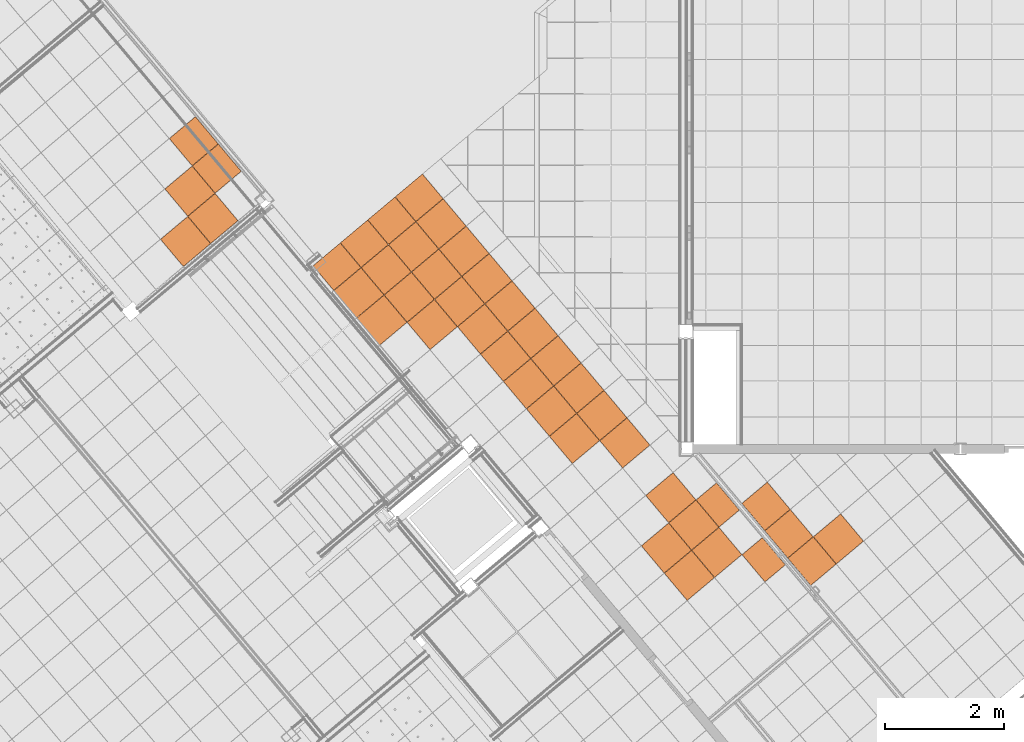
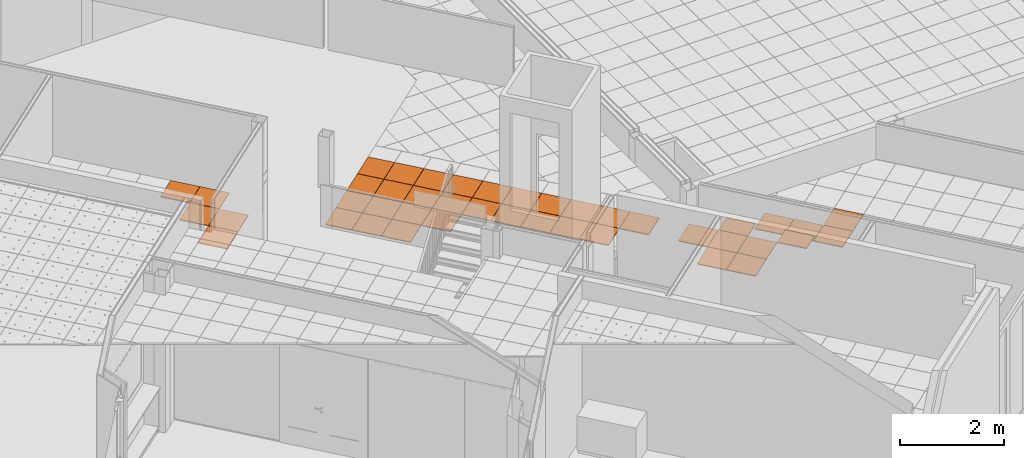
# One storey, part 196 of 338: 42 proxies, 3 elements without a shape of their own.
"""IFC2X3 building model written with IfcOpenShell, lengths in millimetres."""

from ifc_helpers import new_model, entity, si_unit, converted_unit, derived_unit, money_unit, direction, frame, origin_with_axes, place, context, subcontext, project, spatial, faceted_brep, source, transform, mapped, material, type_object, type_shapes, element, aggregate, save


model = new_model("IFC2X3")

# Units and contexts
model_context = context("Model", 3, precision=0.01, world=origin_with_axes(), true_north=direction((0.0, 1.0)))
plan_context = context("Plan", 3, precision=0.01, world=origin_with_axes(), true_north=direction((0.0, 1.0)))
body_context = subcontext(model_context, "Body", "Model", "MODEL_VIEW")
ifc_project = project(units=[si_unit("LENGTHUNIT", "METRE", prefix="MILLI"), si_unit("AREAUNIT", "SQUARE_METRE"), si_unit("VOLUMEUNIT", "CUBIC_METRE"), converted_unit("PLANEANGLEUNIT", "DEGREE", entity("IfcPlaneAngleMeasure", 0.0174532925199), si_unit("PLANEANGLEUNIT", "RADIAN"), dimensions=[0, 0, 0, 0, 0, 0, 0]), money_unit("EUR"), converted_unit("TIMEUNIT", "Year", entity("IfcTimeMeasure", 31556926.0), si_unit("TIMEUNIT", "SECOND"), dimensions=[0, 0, 1, 0, 0, 0, 0]), si_unit("MASSUNIT", "GRAM", prefix="KILO"), si_unit("THERMODYNAMICTEMPERATUREUNIT", "DEGREE_CELSIUS"), si_unit("LUMINOUSINTENSITYUNIT", "LUMEN"), si_unit("ENERGYUNIT", "JOULE", prefix="MEGA"), derived_unit("THERMALCONDUCTANCEUNIT", [(si_unit("POWERUNIT", "WATT"), 1), (si_unit("LENGTHUNIT", "METRE"), -1), (si_unit("THERMODYNAMICTEMPERATUREUNIT", "KELVIN"), -1)]), derived_unit("SPECIFICHEATCAPACITYUNIT", [(si_unit("ENERGYUNIT", "JOULE"), 1), (si_unit("MASSUNIT", "GRAM", prefix="KILO"), -1), (si_unit("THERMODYNAMICTEMPERATUREUNIT", "KELVIN"), -1)]), derived_unit("MASSDENSITYUNIT", [(si_unit("MASSUNIT", "GRAM", prefix="KILO"), 1), (si_unit("VOLUMEUNIT", "CUBIC_METRE"), -1)])], contexts=[model_context, plan_context])

# Site, building, storey
site_placement = place(None, origin_with_axes())
site = spatial("IfcSite", under=ifc_project, at=site_placement, Name="Fortuinstraat Woensdrecht", CompositionType="ELEMENT")
building_placement = place(site_placement, origin_with_axes())
building = spatial("IfcBuilding", under=site, at=building_placement, Name="IKC Fortuna", CompositionType="ELEMENT")
storey_placement = place(building_placement, origin_with_axes())
storey = spatial("IfcBuildingStorey", under=building, at=storey_placement, Name="00 begane grond", CompositionType="ELEMENT", Elevation=0.0)

# Covering, proxy
covering_type = type_object("IfcCoveringType", Name="Curtain Wall Type", PredefinedType="CEILING")
covering_1_placement = place(storey_placement, frame((15581.2998521, 5435.5548951, 3210.0), z_axis=(0.0, 0.0, 1.0), x_axis=(1.0, 0.0, 0.0)))
covering_1 = element("IfcCovering", 1, at=covering_1_placement, inside=storey, type_object=covering_type, Name="45_Plafondafwerking_P02 v", PredefinedType="CEILING")
ifc_material = material(Name="Gipsplaat")
building_element_proxy_type_1 = type_object("IfcBuildingElementProxyType", Name="Distinct Panel 600 x 600 x 20", PredefinedType="NOTDEFINED")
shared_shape_1 = source(origin_with_axes(), body_context, "Body", "Brep", [
    faceted_brep([(-597.499994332, 2.50000201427, -10.0), (-597.499994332, 2.50000201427, 10.0), (-597.499997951, 597.499994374, 10.0), (-597.499997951, 597.499994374, -10.0), (-2.50001005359, 2.49999600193, -10.0), (-2.50001005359, 2.49999600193, 10.0), (-2.49999596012, 597.499989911, 10.0), (-2.49999596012, 597.499989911, -10.0)], [[[0, 1, 2, 3]], [[4, 5, 1, 0]], [[1, 5, 6, 2]], [[3, 2, 6, 7]], [[0, 3, 7, 4]], [[7, 6, 5, 4]]]),
])
proxy_1_placement = place(covering_1_placement, frame((1703.17313986, 645.887923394, 0.0), z_axis=(0.0, 0.0, 1.0), x_axis=(1.0, 0.0, 0.0)))
proxy_1 = element("IfcBuildingElementProxy", 2, at=proxy_1_placement, type_object=building_element_proxy_type_1, material=ifc_material, Name="__Panel-D", context=body_context, shape_type="MappedRepresentation", body=[
    mapped(shared_shape_1, transform((-422.649621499, 36.9769853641, 0.0), x_axis=(-0.766044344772, -0.642787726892, 0.0), y_axis=(0.642787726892, -0.766044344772, 0.0), z_axis=(0.0, 0.0, 1.0))),
])

covering_2_placement = place(storey_placement, frame((26804.4884552, -1724.43837499, 3010.0), z_axis=(0.0, 0.0, 1.0), x_axis=(1.0, 0.0, 0.0)))
covering_2 = element("IfcCovering", 3, at=covering_2_placement, inside=storey, type_object=covering_type, Name="45_Plafondafwerking_P04", PredefinedType="CEILING")
shared_shape_2 = source(origin_with_axes(), body_context, "Body", "Brep", [
    faceted_brep([(597.499991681, 597.50000021, -10.0), (2.49999975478, 597.499991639, -10.0), (2.49999975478, 597.499991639, 10.0), (597.499991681, 597.50000021, 10.0), (597.499992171, 2.49999865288, -10.0), (2.4999986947, 2.50000779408, -10.0), (2.4999986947, 2.50000779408, 10.0), (597.499992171, 2.49999865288, 10.0)], [[[0, 1, 2, 3]], [[0, 4, 5, 1]], [[1, 5, 6, 2]], [[3, 2, 6, 7]], [[4, 0, 3, 7]], [[5, 4, 7, 6]]]),
])
proxy_2_placement = place(covering_2_placement, frame((-1063.39895974, 2200.74439073, 0.0), z_axis=(0.0, 0.0, 1.0), x_axis=(1.0, 0.0, 0.0)))
proxy_2 = element("IfcBuildingElementProxy", 4, at=proxy_2_placement, type_object=building_element_proxy_type_1, material=ifc_material, Name="__Panel-D", context=body_context, shape_type="MappedRepresentation", body=[
    mapped(shared_shape_2, transform((-36.9771146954, -422.649610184, 0.0), x_axis=(0.766044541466, 0.642787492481, 0.0), y_axis=(-0.642787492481, 0.766044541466, 0.0), z_axis=(0.0, 0.0, 1.0))),
])

# Covering, proxies
covering_3_placement = place(storey_placement, frame((30245.4600673, -364.084118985, 2810.0), z_axis=(0.0, 0.0, 1.0), x_axis=(1.0, 0.0, 0.0)))
covering_3 = element("IfcCovering", 5, at=covering_3_placement, inside=storey, type_object=covering_type, Name="45_Plafondafwerking_P02", PredefinedType="CEILING")
building_element_proxy_type_2 = type_object("IfcBuildingElementProxyType", Name="Distinct Panel 560 x 600 x 20", PredefinedType="NOTDEFINED")
shared_shape_3 = source(origin_with_axes(), body_context, "Body", "Brep", [
    faceted_brep([(597.499997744, 597.500000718, -10.0), (42.1235042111, 597.499997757, -10.0), (42.1235042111, 597.499997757, 10.0), (597.499997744, 597.500000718, 10.0), (597.500009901, 2.49999101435, -10.0), (42.1241736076, 2.49999362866, -10.0), (42.1241736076, 2.49999362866, 10.0), (597.500009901, 2.49999101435, 10.0)], [[[0, 1, 2, 3]], [[0, 4, 5, 1]], [[1, 5, 6, 2]], [[3, 2, 6, 7]], [[4, 0, 3, 7]], [[5, 4, 7, 6]]]),
])
proxy_3_placement = place(covering_3_placement, frame((-2520.72063799, 234.599805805, 0.0), z_axis=(0.0, 0.0, 1.0), x_axis=(1.0, 0.0, 0.0)))
proxy_3 = element("IfcBuildingElementProxy", 6, at=proxy_3_placement, type_object=building_element_proxy_type_2, material=ifc_material, Name="__Panel-D", context=body_context, shape_type="MappedRepresentation", body=[
    mapped(shared_shape_3, transform((-52.1543181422, -435.384417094, 0.0), x_axis=(0.766045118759, 0.642786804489, 0.0), y_axis=(-0.642786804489, 0.766045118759, 0.0), z_axis=(0.0, 0.0, 1.0))),
])
shared_shape_4 = source(origin_with_axes(), body_context, "Body", "Brep", [
    faceted_brep([(597.49999164, 597.500000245, -10.0), (2.50000779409, 597.500001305, -10.0), (2.50000779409, 597.500001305, 10.0), (597.49999164, 597.500000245, 10.0), (597.50000021, 2.50000831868, -10.0), (2.49999865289, 2.50000782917, -10.0), (2.49999865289, 2.50000782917, 10.0), (597.50000021, 2.50000831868, 10.0)], [[[0, 1, 2, 3]], [[0, 4, 5, 1]], [[1, 5, 6, 2]], [[3, 2, 6, 7]], [[4, 0, 3, 7]], [[5, 4, 7, 6]]]),
])
proxy_4_placement = place(covering_3_placement, frame((-2076.27039059, 607.537048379, 0.0), z_axis=(0.0, 0.0, 1.0), x_axis=(1.0, 0.0, 0.0)))
proxy_4 = element("IfcBuildingElementProxy", 7, at=proxy_4_placement, type_object=building_element_proxy_type_1, material=ifc_material, Name="__Panel-D", context=body_context, shape_type="MappedRepresentation", body=[
    mapped(shared_shape_4, transform((-36.9774942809, -422.649576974, 0.0), x_axis=(0.766045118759, 0.642786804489, 0.0), y_axis=(-0.642786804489, 0.766045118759, 0.0), z_axis=(0.0, 0.0, 1.0))),
])

# Proxy
proxy_5_placement = place(covering_2_placement, frame((-1137.35318913, 1355.44517036, 0.0), z_axis=(0.0, 0.0, 1.0), x_axis=(1.0, 0.0, 0.0)))
proxy_5 = element("IfcBuildingElementProxy", 8, at=proxy_5_placement, type_object=building_element_proxy_type_1, material=ifc_material, Name="__Panel-D", context=body_context, shape_type="MappedRepresentation", body=[
    mapped(shared_shape_4, transform((-36.9771146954, -422.649610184, 0.0), x_axis=(0.766044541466, 0.642787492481, 0.0), y_axis=(-0.642787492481, 0.766044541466, 0.0), z_axis=(0.0, 0.0, 1.0))),
])

proxy_6_placement = place(covering_2_placement, frame((-677.726464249, 1741.11766585, 0.0), z_axis=(0.0, 0.0, 1.0), x_axis=(1.0, 0.0, 0.0)))
proxy_6 = element("IfcBuildingElementProxy", 9, at=proxy_6_placement, type_object=building_element_proxy_type_1, material=ifc_material, Name="__Panel-D", context=body_context, shape_type="MappedRepresentation", body=[
    mapped(shared_shape_4, transform((-36.9771146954, -422.649610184, 0.0), x_axis=(0.766044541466, 0.642787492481, 0.0), y_axis=(-0.642787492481, 0.766044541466, 0.0), z_axis=(0.0, 0.0, 1.0))),
])

proxy_7_placement = place(covering_2_placement, frame((-1523.02568462, 1815.07189524, 0.0), z_axis=(0.0, 0.0, 1.0), x_axis=(1.0, 0.0, 0.0)))
proxy_7 = element("IfcBuildingElementProxy", 10, at=proxy_7_placement, type_object=building_element_proxy_type_1, material=ifc_material, Name="__Panel-D", context=body_context, shape_type="MappedRepresentation", body=[
    mapped(shared_shape_4, transform((-36.9771146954, -422.649610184, 0.0), x_axis=(0.766044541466, 0.642787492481, 0.0), y_axis=(-0.642787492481, 0.766044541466, 0.0), z_axis=(0.0, 0.0, 1.0))),
])

proxy_8_placement = place(covering_2_placement, frame((-5765.42313499, 6870.96586891, 0.0), z_axis=(0.0, 0.0, 1.0), x_axis=(1.0, 0.0, 0.0)))
proxy_8 = element("IfcBuildingElementProxy", 11, at=proxy_8_placement, type_object=building_element_proxy_type_1, material=ifc_material, Name="__Panel-D", context=body_context, shape_type="MappedRepresentation", body=[
    mapped(shared_shape_4, transform((-36.9771146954, -422.649610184, 0.0), x_axis=(0.766044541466, 0.642787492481, 0.0), y_axis=(-0.642787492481, 0.766044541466, 0.0), z_axis=(0.0, 0.0, 1.0))),
])

proxy_9_placement = place(covering_2_placement, frame((-4920.12391462, 6797.01163952, 0.0), z_axis=(0.0, 0.0, 1.0), x_axis=(1.0, 0.0, 0.0)))
proxy_9 = element("IfcBuildingElementProxy", 12, at=proxy_9_placement, type_object=building_element_proxy_type_1, material=ifc_material, Name="__Panel-D", context=body_context, shape_type="MappedRepresentation", body=[
    mapped(shared_shape_4, transform((-36.9771146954, -422.649610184, 0.0), x_axis=(0.766044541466, 0.642787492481, 0.0), y_axis=(-0.642787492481, 0.766044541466, 0.0), z_axis=(0.0, 0.0, 1.0))),
])

proxy_10_placement = place(covering_2_placement, frame((-4534.45141914, 6337.38491464, 0.0), z_axis=(0.0, 0.0, 1.0), x_axis=(1.0, 0.0, 0.0)))
proxy_10 = element("IfcBuildingElementProxy", 13, at=proxy_10_placement, type_object=building_element_proxy_type_1, material=ifc_material, Name="__Panel-D", context=body_context, shape_type="MappedRepresentation", body=[
    mapped(shared_shape_4, transform((-36.9771146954, -422.649610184, 0.0), x_axis=(0.766044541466, 0.642787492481, 0.0), y_axis=(-0.642787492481, 0.766044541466, 0.0), z_axis=(0.0, 0.0, 1.0))),
])

proxy_11_placement = place(covering_2_placement, frame((-4148.77892365, 5877.75818976, 0.0), z_axis=(0.0, 0.0, 1.0), x_axis=(1.0, 0.0, 0.0)))
proxy_11 = element("IfcBuildingElementProxy", 14, at=proxy_11_placement, type_object=building_element_proxy_type_1, material=ifc_material, Name="__Panel-D", context=body_context, shape_type="MappedRepresentation", body=[
    mapped(shared_shape_4, transform((-36.9771146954, -422.649610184, 0.0), x_axis=(0.766044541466, 0.642787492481, 0.0), y_axis=(-0.642787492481, 0.766044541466, 0.0), z_axis=(0.0, 0.0, 1.0))),
])

proxy_12_placement = place(covering_2_placement, frame((-3763.10642816, 5418.13146488, 0.0), z_axis=(0.0, 0.0, 1.0), x_axis=(1.0, 0.0, 0.0)))
proxy_12 = element("IfcBuildingElementProxy", 15, at=proxy_12_placement, type_object=building_element_proxy_type_1, material=ifc_material, Name="__Panel-D", context=body_context, shape_type="MappedRepresentation", body=[
    mapped(shared_shape_4, transform((-36.9771146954, -422.649610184, 0.0), x_axis=(0.766044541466, 0.642787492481, 0.0), y_axis=(-0.642787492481, 0.766044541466, 0.0), z_axis=(0.0, 0.0, 1.0))),
])

proxy_13_placement = place(covering_2_placement, frame((-5453.7048689, 5566.03992366, 0.0), z_axis=(0.0, 0.0, 1.0), x_axis=(1.0, 0.0, 0.0)))
proxy_13 = element("IfcBuildingElementProxy", 16, at=proxy_13_placement, type_object=building_element_proxy_type_1, material=ifc_material, Name="__Panel-D", context=body_context, shape_type="MappedRepresentation", body=[
    mapped(shared_shape_4, transform((-36.9771146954, -422.649610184, 0.0), x_axis=(0.766044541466, 0.642787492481, 0.0), y_axis=(-0.642787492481, 0.766044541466, 0.0), z_axis=(0.0, 0.0, 1.0))),
])

proxy_14_placement = place(covering_2_placement, frame((-5839.37736438, 6025.66664854, 0.0), z_axis=(0.0, 0.0, 1.0), x_axis=(1.0, 0.0, 0.0)))
proxy_14 = element("IfcBuildingElementProxy", 17, at=proxy_14_placement, type_object=building_element_proxy_type_1, material=ifc_material, Name="__Panel-D", context=body_context, shape_type="MappedRepresentation", body=[
    mapped(shared_shape_4, transform((-36.9771146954, -422.649610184, 0.0), x_axis=(0.766044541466, 0.642787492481, 0.0), y_axis=(-0.642787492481, 0.766044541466, 0.0), z_axis=(0.0, 0.0, 1.0))),
])

proxy_15_placement = place(covering_2_placement, frame((-5305.79641011, 7256.6383644, 0.0), z_axis=(0.0, 0.0, 1.0), x_axis=(1.0, 0.0, 0.0)))
proxy_15 = element("IfcBuildingElementProxy", 18, at=proxy_15_placement, type_object=building_element_proxy_type_1, material=ifc_material, Name="__Panel-D", context=body_context, shape_type="MappedRepresentation", body=[
    mapped(shared_shape_4, transform((-36.9771146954, -422.649610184, 0.0), x_axis=(0.766044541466, 0.642787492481, 0.0), y_axis=(-0.642787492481, 0.766044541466, 0.0), z_axis=(0.0, 0.0, 1.0))),
])

proxy_16_placement = place(covering_2_placement, frame((-3065.71566657, 3653.57879476, 0.0), z_axis=(0.0, 0.0, 1.0), x_axis=(1.0, 0.0, 0.0)))
proxy_16 = element("IfcBuildingElementProxy", 19, at=proxy_16_placement, type_object=building_element_proxy_type_1, material=ifc_material, Name="__Panel-D", context=body_context, shape_type="MappedRepresentation", body=[
    mapped(shared_shape_4, transform((-36.9771146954, -422.649610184, 0.0), x_axis=(0.766044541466, 0.642787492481, 0.0), y_axis=(-0.642787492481, 0.766044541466, 0.0), z_axis=(0.0, 0.0, 1.0))),
])

proxy_17_placement = place(covering_2_placement, frame((-3451.38816206, 4113.20551964, 0.0), z_axis=(0.0, 0.0, 1.0), x_axis=(1.0, 0.0, 0.0)))
proxy_17 = element("IfcBuildingElementProxy", 20, at=proxy_17_placement, type_object=building_element_proxy_type_1, material=ifc_material, Name="__Panel-D", context=body_context, shape_type="MappedRepresentation", body=[
    mapped(shared_shape_4, transform((-36.9771146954, -422.649610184, 0.0), x_axis=(0.766044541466, 0.642787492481, 0.0), y_axis=(-0.642787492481, 0.766044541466, 0.0), z_axis=(0.0, 0.0, 1.0))),
])

proxy_18_placement = place(covering_2_placement, frame((-3837.06065755, 4572.83224451, 0.0), z_axis=(0.0, 0.0, 1.0), x_axis=(1.0, 0.0, 0.0)))
proxy_18 = element("IfcBuildingElementProxy", 21, at=proxy_18_placement, type_object=building_element_proxy_type_1, material=ifc_material, Name="__Panel-D", context=body_context, shape_type="MappedRepresentation", body=[
    mapped(shared_shape_4, transform((-36.9771146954, -422.649610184, 0.0), x_axis=(0.766044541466, 0.642787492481, 0.0), y_axis=(-0.642787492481, 0.766044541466, 0.0), z_axis=(0.0, 0.0, 1.0))),
])

proxy_19_placement = place(covering_2_placement, frame((-4222.73315304, 5032.45896939, 0.0), z_axis=(0.0, 0.0, 1.0), x_axis=(1.0, 0.0, 0.0)))
proxy_19 = element("IfcBuildingElementProxy", 22, at=proxy_19_placement, type_object=building_element_proxy_type_1, material=ifc_material, Name="__Panel-D", context=body_context, shape_type="MappedRepresentation", body=[
    mapped(shared_shape_4, transform((-36.9771146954, -422.649610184, 0.0), x_axis=(0.766044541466, 0.642787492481, 0.0), y_axis=(-0.642787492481, 0.766044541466, 0.0), z_axis=(0.0, 0.0, 1.0))),
])

proxy_20_placement = place(covering_2_placement, frame((-4608.40564853, 5492.08569427, 0.0), z_axis=(0.0, 0.0, 1.0), x_axis=(1.0, 0.0, 0.0)))
proxy_20 = element("IfcBuildingElementProxy", 23, at=proxy_20_placement, type_object=building_element_proxy_type_1, material=ifc_material, Name="__Panel-D", context=body_context, shape_type="MappedRepresentation", body=[
    mapped(shared_shape_4, transform((-36.9771146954, -422.649610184, 0.0), x_axis=(0.766044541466, 0.642787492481, 0.0), y_axis=(-0.642787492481, 0.766044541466, 0.0), z_axis=(0.0, 0.0, 1.0))),
])

proxy_21_placement = place(covering_2_placement, frame((-4994.07814402, 5951.71241915, 0.0), z_axis=(0.0, 0.0, 1.0), x_axis=(1.0, 0.0, 0.0)))
proxy_21 = element("IfcBuildingElementProxy", 24, at=proxy_21_placement, type_object=building_element_proxy_type_1, material=ifc_material, Name="__Panel-D", context=body_context, shape_type="MappedRepresentation", body=[
    mapped(shared_shape_4, transform((-36.9771146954, -422.649610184, 0.0), x_axis=(0.766044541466, 0.642787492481, 0.0), y_axis=(-0.642787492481, 0.766044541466, 0.0), z_axis=(0.0, 0.0, 1.0))),
])

proxy_22_placement = place(covering_2_placement, frame((-5379.7506395, 6411.33914403, 0.0), z_axis=(0.0, 0.0, 1.0), x_axis=(1.0, 0.0, 0.0)))
proxy_22 = element("IfcBuildingElementProxy", 25, at=proxy_22_placement, type_object=building_element_proxy_type_1, material=ifc_material, Name="__Panel-D", context=body_context, shape_type="MappedRepresentation", body=[
    mapped(shared_shape_4, transform((-36.9771146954, -422.649610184, 0.0), x_axis=(0.766044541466, 0.642787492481, 0.0), y_axis=(-0.642787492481, 0.766044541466, 0.0), z_axis=(0.0, 0.0, 1.0))),
])

proxy_23_placement = place(covering_2_placement, frame((-6225.04985987, 6485.29337342, 0.0), z_axis=(0.0, 0.0, 1.0), x_axis=(1.0, 0.0, 0.0)))
proxy_23 = element("IfcBuildingElementProxy", 26, at=proxy_23_placement, type_object=building_element_proxy_type_1, material=ifc_material, Name="__Panel-D", context=body_context, shape_type="MappedRepresentation", body=[
    mapped(shared_shape_4, transform((-36.9771146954, -422.649610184, 0.0), x_axis=(0.766044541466, 0.642787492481, 0.0), y_axis=(-0.642787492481, 0.766044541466, 0.0), z_axis=(0.0, 0.0, 1.0))),
])

proxy_24_placement = place(covering_2_placement, frame((-1449.07145523, 2660.37111561, 0.0), z_axis=(0.0, 0.0, 1.0), x_axis=(1.0, 0.0, 0.0)))
proxy_24 = element("IfcBuildingElementProxy", 27, at=proxy_24_placement, type_object=building_element_proxy_type_1, material=ifc_material, Name="__Panel-D", context=body_context, shape_type="MappedRepresentation", body=[
    mapped(shared_shape_4, transform((-36.9771146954, -422.649610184, 0.0), x_axis=(0.766044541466, 0.642787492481, 0.0), y_axis=(-0.642787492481, 0.766044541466, 0.0), z_axis=(0.0, 0.0, 1.0))),
])

proxy_25_placement = place(covering_2_placement, frame((-2220.4164462, 3579.62456537, 0.0), z_axis=(0.0, 0.0, 1.0), x_axis=(1.0, 0.0, 0.0)))
proxy_25 = element("IfcBuildingElementProxy", 28, at=proxy_25_placement, type_object=building_element_proxy_type_1, material=ifc_material, Name="__Panel-D", context=body_context, shape_type="MappedRepresentation", body=[
    mapped(shared_shape_4, transform((-36.9771146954, -422.649610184, 0.0), x_axis=(0.766044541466, 0.642787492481, 0.0), y_axis=(-0.642787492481, 0.766044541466, 0.0), z_axis=(0.0, 0.0, 1.0))),
])

proxy_26_placement = place(covering_2_placement, frame((-2606.08894169, 4039.25129024, 0.0), z_axis=(0.0, 0.0, 1.0), x_axis=(1.0, 0.0, 0.0)))
proxy_26 = element("IfcBuildingElementProxy", 29, at=proxy_26_placement, type_object=building_element_proxy_type_1, material=ifc_material, Name="__Panel-D", context=body_context, shape_type="MappedRepresentation", body=[
    mapped(shared_shape_4, transform((-36.9771146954, -422.649610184, 0.0), x_axis=(0.766044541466, 0.642787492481, 0.0), y_axis=(-0.642787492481, 0.766044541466, 0.0), z_axis=(0.0, 0.0, 1.0))),
])

proxy_27_placement = place(covering_2_placement, frame((-2991.76143718, 4498.87801512, 0.0), z_axis=(0.0, 0.0, 1.0), x_axis=(1.0, 0.0, 0.0)))
proxy_27 = element("IfcBuildingElementProxy", 30, at=proxy_27_placement, type_object=building_element_proxy_type_1, material=ifc_material, Name="__Panel-D", context=body_context, shape_type="MappedRepresentation", body=[
    mapped(shared_shape_4, transform((-36.9771146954, -422.649610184, 0.0), x_axis=(0.766044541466, 0.642787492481, 0.0), y_axis=(-0.642787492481, 0.766044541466, 0.0), z_axis=(0.0, 0.0, 1.0))),
])

proxy_28_placement = place(covering_2_placement, frame((-3377.43393267, 4958.50474, 0.0), z_axis=(0.0, 0.0, 1.0), x_axis=(1.0, 0.0, 0.0)))
proxy_28 = element("IfcBuildingElementProxy", 31, at=proxy_28_placement, type_object=building_element_proxy_type_1, material=ifc_material, Name="__Panel-D", context=body_context, shape_type="MappedRepresentation", body=[
    mapped(shared_shape_4, transform((-36.9771146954, -422.649610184, 0.0), x_axis=(0.766044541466, 0.642787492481, 0.0), y_axis=(-0.642787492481, 0.766044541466, 0.0), z_axis=(0.0, 0.0, 1.0))),
])

shared_shape_5 = source(origin_with_axes(), body_context, "Body", "Brep", [
    faceted_brep([(597.500001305, 597.499992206, -10.0), (2.50000782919, 597.500001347, -10.0), (2.50000782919, 597.500001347, 10.0), (597.500001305, 597.499992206, 10.0), (597.500000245, 2.5000083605, -10.0), (2.50000831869, 2.49999978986, -10.0), (2.50000831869, 2.49999978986, 10.0), (597.500000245, 2.5000083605, 10.0)], [[[0, 1, 2, 3]], [[0, 4, 5, 1]], [[1, 5, 6, 2]], [[3, 2, 6, 7]], [[4, 0, 3, 7]], [[5, 4, 7, 6]]]),
])
proxy_29_placement = place(covering_2_placement, frame((-6299.00408926, 5639.99415306, 0.0), z_axis=(0.0, 0.0, 1.0), x_axis=(1.0, 0.0, 0.0)))
proxy_29 = element("IfcBuildingElementProxy", 32, at=proxy_29_placement, type_object=building_element_proxy_type_1, material=ifc_material, Name="__Panel-D", context=body_context, shape_type="MappedRepresentation", body=[
    mapped(shared_shape_5, transform((-36.9771146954, -422.649610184, 0.0), x_axis=(0.766044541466, 0.642787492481, 0.0), y_axis=(-0.642787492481, 0.766044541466, 0.0), z_axis=(0.0, 0.0, 1.0))),
])

shared_shape_6 = source(origin_with_axes(), body_context, "Body", "Brep", [
    faceted_brep([(597.500011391, 597.500006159, -10.0), (42.122269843, 597.500002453, -10.0), (42.122269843, 597.500002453, 10.0), (597.500011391, 597.500006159, 10.0), (597.500006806, 2.49999737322, -10.0), (42.1229303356, 2.50000858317, -10.0), (42.1229303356, 2.50000858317, 10.0), (597.500006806, 2.49999737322, 10.0)], [[[0, 1, 2, 3]], [[0, 4, 5, 1]], [[1, 5, 6, 2]], [[3, 2, 6, 7]], [[4, 0, 3, 7]], [[5, 4, 7, 6]]]),
])
type_shapes(building_element_proxy_type_2, [shared_shape_3, shared_shape_6])
proxy_30_placement = place(covering_3_placement, frame((-3292.0652773, 1153.85355065, 0.0), z_axis=(0.0, 0.0, 1.0), x_axis=(1.0, 0.0, 0.0)))
proxy_30 = element("IfcBuildingElementProxy", 33, at=proxy_30_placement, type_object=building_element_proxy_type_2, material=ifc_material, Name="__Panel-D", context=body_context, shape_type="MappedRepresentation", body=[
    mapped(shared_shape_6, transform((-52.1538442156, -435.384019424, 0.0), x_axis=(0.766045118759, 0.642786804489, 0.0), y_axis=(-0.642786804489, 0.766045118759, 0.0), z_axis=(0.0, 0.0, 1.0))),
])

proxy_31_placement = place(covering_3_placement, frame((-2906.39295764, 694.226678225, 0.0), z_axis=(0.0, 0.0, 1.0), x_axis=(1.0, 0.0, 0.0)))
proxy_31 = element("IfcBuildingElementProxy", 34, at=proxy_31_placement, type_object=building_element_proxy_type_2, material=ifc_material, Name="__Panel-D", context=body_context, shape_type="MappedRepresentation", body=[
    mapped(shared_shape_6, transform((-52.1540811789, -435.384218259, 0.0), x_axis=(0.766045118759, 0.642786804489, 0.0), y_axis=(-0.642786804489, 0.766045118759, 0.0), z_axis=(0.0, 0.0, 1.0))),
])

aggregate(covering_3, [proxy_3, proxy_30, proxy_4, proxy_31])

shared_shape_7 = source(origin_with_axes(), body_context, "Body", "Brep", [
    faceted_brep([(597.49999164, 597.500000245, -10.0), (2.50000779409, 597.500001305, -10.0), (2.50000779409, 597.500001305, 10.0), (597.49999164, 597.500000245, 10.0), (597.50000021, 2.50000831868, -10.0), (2.49999865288, 2.50000782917, -10.0), (2.49999865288, 2.50000782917, 10.0), (597.50000021, 2.50000831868, 10.0)], [[[0, 1, 2, 3]], [[0, 4, 5, 1]], [[1, 5, 6, 2]], [[3, 2, 6, 7]], [[4, 0, 3, 7]], [[5, 4, 7, 6]]]),
])
proxy_32_placement = place(covering_2_placement, frame((-6684.67658475, 6099.62087794, 0.0), z_axis=(0.0, 0.0, 1.0), x_axis=(1.0, 0.0, 0.0)))
proxy_32 = element("IfcBuildingElementProxy", 35, at=proxy_32_placement, type_object=building_element_proxy_type_1, material=ifc_material, Name="__Panel-D", context=body_context, shape_type="MappedRepresentation", body=[
    mapped(shared_shape_7, transform((-36.9771146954, -422.649610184, 0.0), x_axis=(0.766044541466, 0.642787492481, 0.0), y_axis=(-0.642787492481, 0.766044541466, 0.0), z_axis=(0.0, 0.0, 1.0))),
])

building_element_proxy_type_3 = type_object("IfcBuildingElementProxyType", Name="Distinct Panel 450 x 600 x 20", PredefinedType="NOTDEFINED")
shared_shape_8 = source(origin_with_axes(), body_context, "Body", "Brep", [
    faceted_brep([(447.481195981, 597.500002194, -10.0), (2.49999687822, 597.49999827, -10.0), (2.49999687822, 597.49999827, 10.0), (447.481195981, 597.500002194, 10.0), (447.48120012, 2.50000603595, -10.0), (2.50000101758, 2.50000211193, -10.0), (2.50000101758, 2.50000211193, 10.0), (447.48120012, 2.50000603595, 10.0)], [[[0, 1, 2, 3]], [[0, 4, 5, 1]], [[1, 5, 6, 2]], [[3, 2, 6, 7]], [[4, 0, 3, 7]], [[5, 4, 7, 6]]]),
])
type_shapes(building_element_proxy_type_3, [shared_shape_8])
proxy_33_placement = place(covering_2_placement, frame((110.112213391, 1618.94833123, 0.0), z_axis=(0.0, 0.0, 1.0), x_axis=(1.0, 0.0, 0.0)))
proxy_33 = element("IfcBuildingElementProxy", 36, at=proxy_33_placement, type_object=building_element_proxy_type_3, material=ifc_material, Name="__Panel-D", context=body_context, shape_type="MappedRepresentation", body=[
    mapped(shared_shape_8, transform((20.4834280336, -374.434504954, 0.0), x_axis=(0.766044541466, 0.642787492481, 0.0), y_axis=(-0.642787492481, 0.766044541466, 0.0), z_axis=(0.0, 0.0, 1.0))),
])

proxy_34_placement = place(covering_2_placement, frame((-661.232777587, 2538.20178099, 0.0), z_axis=(0.0, 0.0, 1.0), x_axis=(1.0, 0.0, 0.0)))
proxy_34 = element("IfcBuildingElementProxy", 37, at=proxy_34_placement, type_object=building_element_proxy_type_3, material=ifc_material, Name="__Panel-D", context=body_context, shape_type="MappedRepresentation", body=[
    mapped(shared_shape_8, transform((20.4834280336, -374.434504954, 0.0), x_axis=(0.766044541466, 0.642787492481, 0.0), y_axis=(-0.642787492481, 0.766044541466, 0.0), z_axis=(0.0, 0.0, 1.0))),
])

building_element_proxy_type_4 = type_object("IfcBuildingElementProxyType", Name="Distinct Panel 600 x 544 x 20", PredefinedType="NOTDEFINED")
shared_shape_9 = source(origin_with_axes(), body_context, "Body", "Brep", [
    faceted_brep([(597.499995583, 541.058452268, -10.0), (2.50000542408, 541.058444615, -10.0), (2.50000542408, 541.058444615, 10.0), (597.499995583, 541.058452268, 10.0), (597.500003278, 2.49998809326, -10.0), (2.50000241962, 2.50000512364, -10.0), (2.50000241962, 2.50000512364, 10.0), (597.500003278, 2.49998809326, 10.0)], [[[0, 1, 2, 3]], [[0, 4, 5, 1]], [[1, 5, 6, 2]], [[3, 2, 6, 7]], [[4, 0, 3, 7]], [[5, 4, 7, 6]]]),
])
type_shapes(building_element_proxy_type_4, [shared_shape_9])
proxy_35_placement = place(covering_2_placement, frame((-7052.20911797, 6537.6292309, 0.0), z_axis=(0.0, 0.0, 1.0), x_axis=(1.0, 0.0, 0.0)))
proxy_35 = element("IfcBuildingElementProxy", 38, at=proxy_35_placement, type_object=building_element_proxy_type_4, material=ifc_material, Name="__Panel-D", context=body_context, shape_type="MappedRepresentation", body=[
    mapped(shared_shape_9, transform((-55.1170769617, -401.031238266, 0.0), x_axis=(0.766044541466, 0.642787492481, 0.0), y_axis=(-0.642787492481, 0.766044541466, 0.0), z_axis=(0.0, 0.0, 1.0))),
])

proxy_36_placement = place(covering_2_placement, frame((-6132.95566822, 7308.97422187, 0.0), z_axis=(0.0, 0.0, 1.0), x_axis=(1.0, 0.0, 0.0)))
proxy_36 = element("IfcBuildingElementProxy", 39, at=proxy_36_placement, type_object=building_element_proxy_type_4, material=ifc_material, Name="__Panel-D", context=body_context, shape_type="MappedRepresentation", body=[
    mapped(shared_shape_9, transform((-55.1170769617, -401.031238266, 0.0), x_axis=(0.766044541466, 0.642787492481, 0.0), y_axis=(-0.642787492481, 0.766044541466, 0.0), z_axis=(0.0, 0.0, 1.0))),
])

proxy_37_placement = place(covering_2_placement, frame((-6592.5823931, 6923.30172639, 0.0), z_axis=(0.0, 0.0, 1.0), x_axis=(1.0, 0.0, 0.0)))
proxy_37 = element("IfcBuildingElementProxy", 40, at=proxy_37_placement, type_object=building_element_proxy_type_4, material=ifc_material, Name="__Panel-D", context=body_context, shape_type="MappedRepresentation", body=[
    mapped(shared_shape_9, transform((-55.1170769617, -401.031238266, 0.0), x_axis=(0.766044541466, 0.642787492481, 0.0), y_axis=(-0.642787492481, 0.766044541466, 0.0), z_axis=(0.0, 0.0, 1.0))),
])

proxy_38_placement = place(covering_2_placement, frame((-5673.32894334, 7694.64671736, 0.0), z_axis=(0.0, 0.0, 1.0), x_axis=(1.0, 0.0, 0.0)))
proxy_38 = element("IfcBuildingElementProxy", 41, at=proxy_38_placement, type_object=building_element_proxy_type_4, material=ifc_material, Name="__Panel-D", context=body_context, shape_type="MappedRepresentation", body=[
    mapped(shared_shape_9, transform((-55.1170769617, -401.031238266, 0.0), x_axis=(0.766044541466, 0.642787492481, 0.0), y_axis=(-0.642787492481, 0.766044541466, 0.0), z_axis=(0.0, 0.0, 1.0))),
])

aggregate(covering_2, [proxy_33, proxy_5, proxy_6, proxy_2, proxy_34, proxy_32, proxy_35, proxy_36, proxy_7, proxy_8, proxy_9, proxy_10, proxy_11, proxy_12, proxy_13, proxy_14, proxy_15, proxy_16, proxy_17, proxy_18, proxy_19, proxy_20, proxy_21, proxy_22, proxy_23, proxy_24, proxy_25, proxy_26, proxy_27, proxy_28, proxy_29, proxy_37, proxy_38])

building_element_proxy_type_5 = type_object("IfcBuildingElementProxyType", Name="Distinct Panel 575 x 600 x 20", PredefinedType="NOTDEFINED")
shared_shape_10 = source(origin_with_axes(), body_context, "Body", "Brep", [
    faceted_brep([(-572.749491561, 2.4999915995, -10.0), (-572.749491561, 2.4999915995, 10.0), (-572.749492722, 597.50000725, 10.0), (-572.749492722, 597.50000725, -10.0), (-2.49999882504, 2.49999206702, -10.0), (-2.49999882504, 2.49999206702, 10.0), (-2.49999998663, 597.500007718, 10.0), (-2.49999998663, 597.500007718, -10.0)], [[[0, 1, 2, 3]], [[4, 5, 1, 0]], [[1, 5, 6, 2]], [[3, 2, 6, 7]], [[0, 3, 7, 4]], [[7, 6, 5, 4]]]),
])
proxy_39_placement = place(covering_1_placement, frame((1767.64728333, 1483.23264437, 0.0), z_axis=(0.0, 0.0, 1.0), x_axis=(1.0, 0.0, 0.0)))
proxy_39 = element("IfcBuildingElementProxy", 42, at=proxy_39_placement, type_object=building_element_proxy_type_5, material=ifc_material, Name="__Panel-D", context=body_context, shape_type="MappedRepresentation", body=[
    mapped(shared_shape_10, transform((-413.169794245, 44.9315073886, 0.0), x_axis=(-0.766044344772, -0.642787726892, 0.0), y_axis=(0.642787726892, -0.766044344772, 0.0), z_axis=(0.0, 0.0, 1.0))),
])

shared_shape_11 = source(origin_with_axes(), body_context, "Body", "Brep", [
    faceted_brep([(-572.749937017, 2.49998063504, -10.0), (-572.749937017, 2.49998063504, 10.0), (-572.749929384, 597.500002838, 10.0), (-572.749929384, 597.500002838, -10.0), (-2.50000245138, 2.50000238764, -10.0), (-2.50000245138, 2.50000238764, 10.0), (-2.50000122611, 597.499997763, 10.0), (-2.50000122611, 597.499997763, -10.0)], [[[0, 1, 2, 3]], [[4, 5, 1, 0]], [[1, 5, 6, 2]], [[3, 2, 6, 7]], [[0, 3, 7, 4]], [[7, 6, 5, 4]]]),
])
type_shapes(building_element_proxy_type_5, [shared_shape_10, shared_shape_11])
proxy_40_placement = place(covering_1_placement, frame((2153.3199185, 1023.60603669, 0.0), z_axis=(0.0, 0.0, 1.0), x_axis=(1.0, 0.0, 0.0)))
proxy_40 = element("IfcBuildingElementProxy", 43, at=proxy_40_placement, type_object=building_element_proxy_type_5, material=ifc_material, Name="__Panel-D", context=body_context, shape_type="MappedRepresentation", body=[
    mapped(shared_shape_11, transform((-413.169793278, 44.9315081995, 0.0), x_axis=(-0.766044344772, -0.642787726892, 0.0), y_axis=(0.642787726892, -0.766044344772, 0.0), z_axis=(0.0, 0.0, 1.0))),
])

shared_shape_12 = source(origin_with_axes(), body_context, "Body", "Brep", [
    faceted_brep([(-597.500003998, 2.50001005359, -10.0), (-597.500003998, 2.50001005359, 10.0), (-597.499997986, 597.499994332, 10.0), (-597.499997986, 597.499994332, -10.0), (-2.50001008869, 2.4999959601, -10.0), (-2.50001008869, 2.4999959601, 10.0), (-2.50000562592, 597.499997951, 10.0), (-2.50000562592, 597.499997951, -10.0)], [[[0, 1, 2, 3]], [[4, 5, 1, 0]], [[1, 5, 6, 2]], [[3, 2, 6, 7]], [[0, 3, 7, 4]], [[7, 6, 5, 4]]]),
])
proxy_41_placement = place(covering_1_placement, frame((1629.21916913, -199.411319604, 0.0), z_axis=(0.0, 0.0, 1.0), x_axis=(1.0, 0.0, 0.0)))
proxy_41 = element("IfcBuildingElementProxy", 44, at=proxy_41_placement, type_object=building_element_proxy_type_1, material=ifc_material, Name="__Panel-D", context=body_context, shape_type="MappedRepresentation", body=[
    mapped(shared_shape_12, transform((-422.649621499, 36.9769853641, 0.0), x_axis=(-0.766044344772, -0.642787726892, 0.0), y_axis=(0.642787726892, -0.766044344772, 0.0), z_axis=(0.0, 0.0, 1.0))),
])

shared_shape_13 = source(origin_with_axes(), body_context, "Body", "Brep", [
    faceted_brep([(-597.499994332, 2.50000201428, -10.0), (-597.499994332, 2.50000201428, 10.0), (-597.499997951, 597.499994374, 10.0), (-597.499997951, 597.499994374, -10.0), (-2.5000100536, 2.49999600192, -10.0), (-2.5000100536, 2.49999600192, 10.0), (-2.49999596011, 597.499989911, 10.0), (-2.49999596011, 597.499989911, -10.0)], [[[0, 1, 2, 3]], [[4, 5, 1, 0]], [[1, 5, 6, 2]], [[3, 2, 6, 7]], [[0, 3, 7, 4]], [[7, 6, 5, 4]]]),
])
type_shapes(building_element_proxy_type_1, [shared_shape_1, shared_shape_2, shared_shape_4, shared_shape_5, shared_shape_7, shared_shape_12, shared_shape_13])
proxy_42_placement = place(covering_1_placement, frame((2088.84577599, 186.261316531, 0.0), z_axis=(0.0, 0.0, 1.0), x_axis=(1.0, 0.0, 0.0)))
proxy_42 = element("IfcBuildingElementProxy", 45, at=proxy_42_placement, type_object=building_element_proxy_type_1, material=ifc_material, Name="__Panel-D", context=body_context, shape_type="MappedRepresentation", body=[
    mapped(shared_shape_13, transform((-422.649621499, 36.9769853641, 0.0), x_axis=(-0.766044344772, -0.642787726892, 0.0), y_axis=(0.642787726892, -0.766044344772, 0.0), z_axis=(0.0, 0.0, 1.0))),
])

aggregate(covering_1, [proxy_39, proxy_41, proxy_1, proxy_42, proxy_40])

save(model, "model.ifc")
